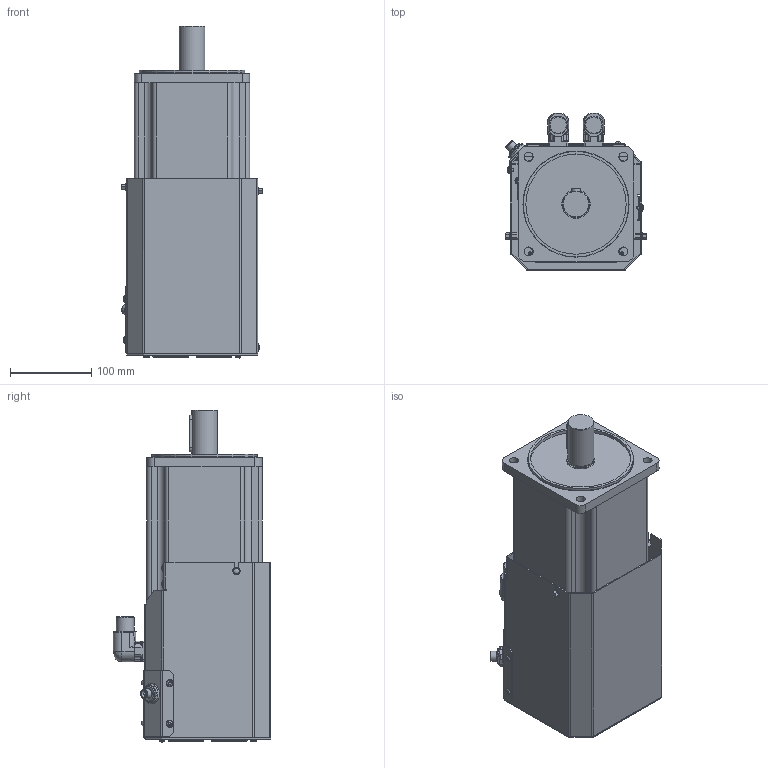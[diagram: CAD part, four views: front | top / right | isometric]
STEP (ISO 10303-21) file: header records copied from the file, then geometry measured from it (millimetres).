
FILE_DESCRIPTION(/* description */ (''),/* implementation_level */ '2;1');
FILE_NAME(/* name */ 'C:\Autodesk Vault\AUTODESK_VAULT\CAD\000-FERTIG Motors\BM140\_Gesamtbaugruppen\vereinfachte_Modelle\Lüfter\AM8062-xK0B-xxx0.stp',/* time_stamp */ '2017-01-19T11:11:45+01:00',/* author */ ('JohannesD'),/* organization */ ('FERTIG Motors'),/* preprocessor_version */ 'ST-DEVELOPER v16.5',/* originating_system */ 'Autodesk Inventor 2017',/* authorisation */ '');
FILE_SCHEMA (('CONFIG_CONTROL_DESIGN'));
Length unit declared in the file: millimetre
Products named in the file (5): BM140-S-B0_VM_Lüfter_RV2016; Intercontec-BEDC091NN00001116000_VM; DIN 6885 - A 10 x 8 x 45; BM140-VM-00; BM140Lüfter-VM
Assembly tree (5 placements, depth 2):
  BM140-S-B0_VM_Lüfter_RV2016
    Intercontec-BEDC091NN00001116000_VM  x2
    DIN 6885 - A 10 x 8 x 45
    BM140-VM-00
    BM140Lüfter-VM
Bounding box: 174.51 x 193.92 x 409.5 mm (x, y, z)
Volume: 5628889.8 mm3; surface area: 564151.8 mm2
Topology: 7 solids, 18 shells, 1688 faces, 4298 edges, 2674 vertices
Faces by surface type: plane 887, cylinder 469, bspline 141, torus 111, cone 54, sphere 26
Full cylindrical faces by diameter (mm): 0.8 x1, 1 x4, 1.8 x4, 2.15 x1, 2.921 x1, 3.242 x2, 3.632 x1, 4 x26, 4.3 x4, 4.5 x8, 4.8 x21, 7 x8, 8.3 x1, 8.85 x9, 9 x4, 10.7 x1, 11 x4, 12 x1, 12.002 x1, 13 x1, 17 x1, 19.1 x1, 20.1 x4, 22 x2, 23 x1, 27 x1, 31 x1, 31.4 x1, 32 x1, 35 x1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
Entity records: 49730 total; most frequent: CARTESIAN_POINT 10363, DIRECTION 7791, ORIENTED_EDGE 7568, EDGE_CURVE 3784, AXIS2_PLACEMENT_3D 2819, VERTEX_POINT 2480, LINE 2153, VECTOR 2153
